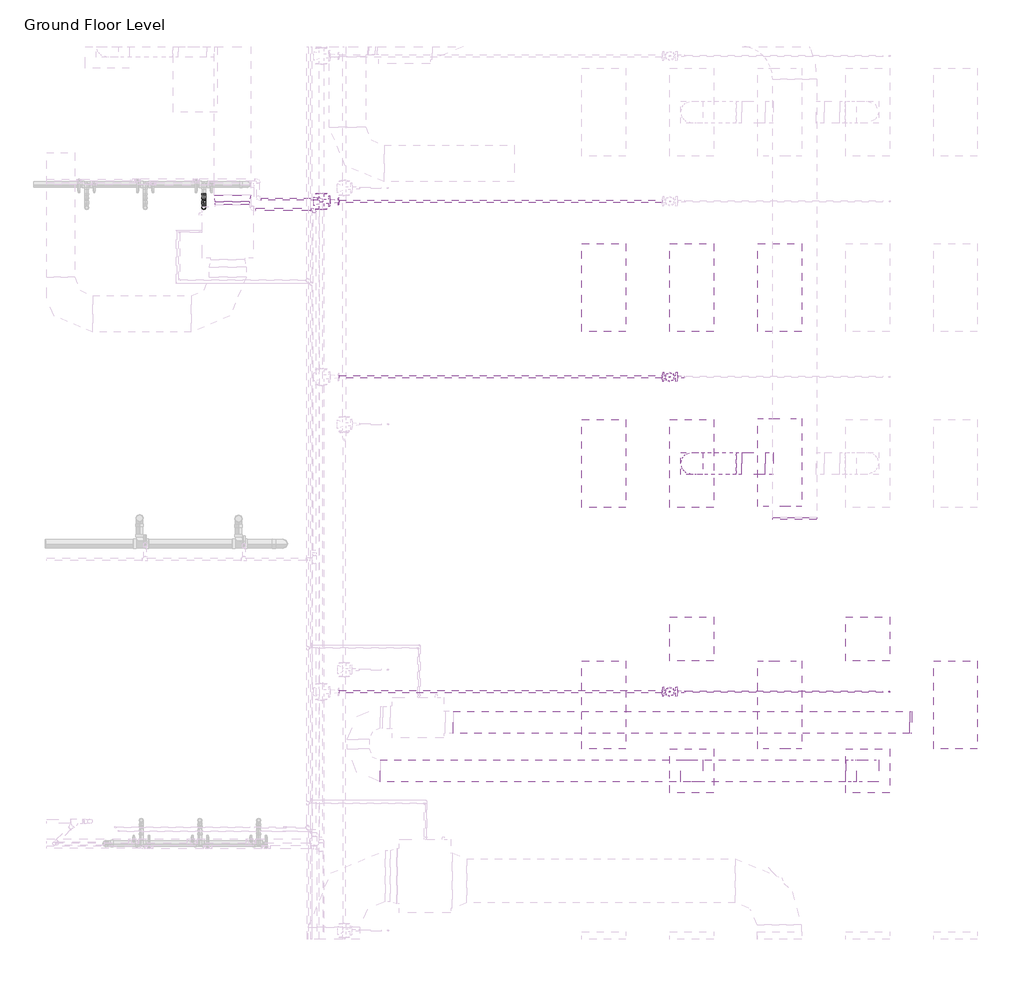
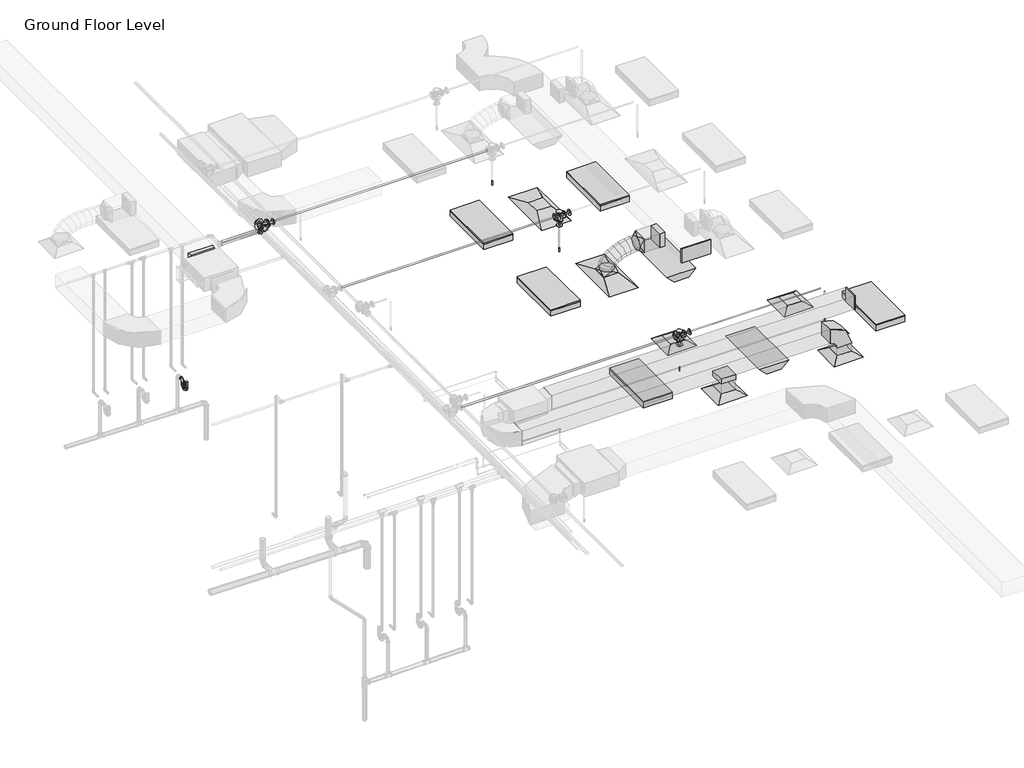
# One storey, part 22 of 74: 13 pipe fittings, 12 pipe segments, 8 duct fittings, 7 duct segments, 7 light fixtures, 6 air terminals, 4 fire suppression terminals.
"""IFC4 building model written with IfcOpenShell, lengths in millimetres."""

from ifc_helpers import new_model, si_unit, point, frame, frame_2d, origin, place, context, project, spatial, polyline, circle_curve, ellipse_curve, trimmed, segment, composite_curve, outline, extrude, transform, mapped, element, save
from ifc_brep_helpers import plane_surface, cylinder_surface, advanced_brep
from components import m_return_diffuser_1200x600_1200_x_600_face_300_x_300_d1983ef6, m_return_diffuser_600_x_600_face_300_x_300_connection_ff221211, m_rectangular_elbow_radius_1_w_618da153, m_rectangular_endcap_standard_0f0ff112, m_rectangular_endcap_standard_c319d4e7, m_rectangular_takeoff_standard_2be5eba1, m_rectangular_transition_angle_45_degree_c3bd3b2c, m_rectangular_to_round_transition_angle_45_degree_641efff0, m_sprinkler_dry_pendent_hosted_15_mm_dry_pendent_9bda8e11, m_emergency_recessed_lighting_fixture_600x1200_277_5b10b25d, m_troffer_light_parabolic_rectangular1_0600x1200mm_4_lamp_86473d4a, m_bend_pvc_sch_40_dwv_standard_1e7bdcc1, m_bend_pvc_sch_40_dwv_standard_776e50c4, m_reducer_flanged_cs_class_150_standard_ccf252ad, m_reducer_flanged_cs_class_150_standard_a7631c35, m_tee_round_base_flanged_cs_class_150_standard_dd767e04, m_tee_round_base_flanged_cs_class_150_standard_7e5987a1, standard_517a5a8d

model = new_model("IFC4")

# Units and contexts
model_context = context("Model", 3, world=origin())
ifc_project = project(units=[si_unit("LENGTHUNIT", "METRE", prefix="MILLI")], contexts=[model_context])

# Site, building, storey
site = spatial("IfcSite", under=ifc_project)
building = spatial("IfcBuilding", under=site)
storey = spatial("IfcBuildingStorey", under=building, Name="Ground Floor Level", Elevation=900.0)

# Air terminals
placement = place(None, origin())
m_return_diffuser_1200x600_1200_x_600_face_300_x_300_shape = m_return_diffuser_1200x600_1200_x_600_face_300_x_300_d1983ef6(model_context)
element("IfcAirTerminal", 1, ObjectType="M_Return Diffuser 1200x600 : 1200 x 600 Face 300 x 300 Connection", at=placement, inside=storey, context=model_context, shape_type="MappedRepresentation", body=[
    mapped(m_return_diffuser_1200x600_1200_x_600_face_300_x_300_shape, transform((10743.0482736, -25264.7846466, 3650.0), x_axis=(0.0, 1.0, 0.0), y_axis=(-1.0, 0.0, 0.0), z_axis=(0.0, 0.0, 1.0))),
])
m_return_diffuser_600_x_600_face_300_x_300_connection_shape = m_return_diffuser_600_x_600_face_300_x_300_connection_ff221211(model_context)
element("IfcAirTerminal", 2, ObjectType="M_Return Diffuser : 600 x 600 Face 300 x 300 Connection", at=placement, inside=storey, context=model_context, shape_type="MappedRepresentation", body=[
    mapped(m_return_diffuser_600_x_600_face_300_x_300_connection_shape, transform((10743.0482736, -31864.7846466, 3650.0), x_axis=(1.0, 0.0, 0.0), y_axis=(0.0, 1.0, 0.0), z_axis=(0.0, 0.0, 1.0))),
])
element("IfcAirTerminal", 3, ObjectType="M_Return Diffuser : 600 x 600 Face 300 x 300 Connection", at=placement, inside=storey, context=model_context, shape_type="MappedRepresentation", body=[
    mapped(m_return_diffuser_600_x_600_face_300_x_300_connection_shape, transform((13143.0482736, -31864.7846466, 3650.0), x_axis=(1.0, 0.0, 0.0), y_axis=(0.0, 1.0, 0.0), z_axis=(0.0, 0.0, 1.0))),
])
element("IfcAirTerminal", 4, ObjectType="M_Supply Diffuser 1200x600 : 1200 x 600 Face 300 x 300 Connection", at=placement, inside=storey, context=model_context, shape_type="MappedRepresentation", body=[
    mapped(m_return_diffuser_1200x600_1200_x_600_face_300_x_300_shape, transform((10743.0482736, -27664.7846466, 3650.0), x_axis=(0.0, 1.0, 0.0), y_axis=(-1.0, 0.0, 0.0), z_axis=(0.0, 0.0, 1.0))),
])
element("IfcAirTerminal", 5, ObjectType="M_Supply Diffuser : 600 x 600 Face 300 x 300 Connection", at=placement, inside=storey, context=model_context, shape_type="MappedRepresentation", body=[
    mapped(m_return_diffuser_600_x_600_face_300_x_300_connection_shape, transform((10743.0482736, -30064.7846466, 3650.0), x_axis=(1.0, 0.0, 0.0), y_axis=(0.0, 1.0, 0.0), z_axis=(0.0, 0.0, 1.0))),
])
element("IfcAirTerminal", 6, ObjectType="M_Supply Diffuser : 600 x 600 Face 300 x 300 Connection", at=placement, inside=storey, context=model_context, shape_type="MappedRepresentation", body=[
    mapped(m_return_diffuser_600_x_600_face_300_x_300_connection_shape, transform((13143.0482736, -30064.7846466, 3650.0), x_axis=(1.0, 0.0, 0.0), y_axis=(0.0, 1.0, 0.0), z_axis=(0.0, 0.0, 1.0))),
])

# Duct fittings
m_rectangular_elbow_radius_1_w_shape = m_rectangular_elbow_radius_1_w_618da153(model_context)
element("IfcDuctFitting", 7, ObjectType="M_Rectangular Elbow - Radius : 1 W", at=placement, inside=storey, context=model_context, shape_type="MappedRepresentation", body=[
    mapped(m_rectangular_elbow_radius_1_w_shape, transform((13143.0482736, -31864.7846466, 4221.2), x_axis=(0.0, 0.0, 1.0), y_axis=(-1.0, 0.0, 0.0), z_axis=(0.0, -1.0, 0.0))),
])
m_rectangular_endcap_standard_shape = m_rectangular_endcap_standard_0f0ff112(model_context)
element("IfcDuctFitting", 8, ObjectType="M_Rectangular Endcap : Standard", at=placement, inside=storey, context=model_context, shape_type="MappedRepresentation", body=[
    mapped(m_rectangular_endcap_standard_shape, transform((12147.7826463, -28403.2846466, 4150.0002153), x_axis=(0.0, -1.0, 0.0), y_axis=(1.0, 0.0, 0.0), z_axis=(0.0, 0.0, 1.0))),
])
m_rectangular_endcap_standard_2_shape = m_rectangular_endcap_standard_c319d4e7(model_context)
element("IfcDuctFitting", 9, ObjectType="M_Rectangular Endcap : Standard", at=placement, inside=storey, context=model_context, shape_type="MappedRepresentation", body=[
    mapped(m_rectangular_endcap_standard_2_shape, transform((13719.2644074, -31200.1877703, 4245.9), x_axis=(0.9999999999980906, 0.0, -1.954187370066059e-06), y_axis=(0.0, 1.0000000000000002, 0.0), z_axis=(1.954187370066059e-06, 0.0, 0.9999999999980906))),
])
m_rectangular_takeoff_standard_shape = m_rectangular_takeoff_standard_2be5eba1(model_context)
element("IfcDuctFitting", 10, ObjectType="M_Rectangular Takeoff : Standard", at=placement, inside=storey, context=model_context, shape_type="MappedRepresentation", body=[
    mapped(m_rectangular_takeoff_standard_shape, transform((11847.7826463, -27664.7846466, 4150.0), x_axis=(-1.0, 0.0, 0.0), y_axis=(0.0, 1.0, 0.0), z_axis=(0.0, 0.0, -1.0))),
])
element("IfcDuctFitting", 11, ObjectType="M_Rectangular Takeoff : Standard", at=placement, inside=storey, context=model_context, shape_type="MappedRepresentation", body=[
    mapped(m_rectangular_takeoff_standard_shape, transform((10743.0482736, -31864.7846466, 4071.2), x_axis=(0.0, 0.0, -1.0), y_axis=(-1.0, 0.0, 0.0), z_axis=(0.0, 1.0, 0.0))),
])
m_rectangular_transition_angle_45_degree_shape = m_rectangular_transition_angle_45_degree_c3bd3b2c(model_context)
element("IfcDuctFitting", 12, ObjectType="M_Rectangular Transition - Angle : 45 Degree", at=placement, inside=storey, context=model_context, shape_type="MappedRepresentation", body=[
    mapped(m_rectangular_transition_angle_45_degree_shape, transform((4469.1581832, -24003.4668801, 4057.1548873), x_axis=(0.0, -0.9999999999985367, 1.7107374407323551e-06), y_axis=(1.0, 0.0, 0.0), z_axis=(0.0, 1.7107374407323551e-06, 0.9999999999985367))),
])
m_rectangular_to_round_transition_angle_45_degree_shape = m_rectangular_to_round_transition_angle_45_degree_641efff0(model_context)
element("IfcDuctFitting", 13, ObjectType="M_Rectangular to Round Transition - Angle : 45 Degree", at=placement, inside=storey, context=model_context, shape_type="MappedRepresentation", body=[
    mapped(m_rectangular_to_round_transition_angle_45_degree_shape, transform((10743.0482736, -27664.7846466, 3751.6), x_axis=(0.0, 0.0, 1.0), y_axis=(-1.0, 0.0, 0.0), z_axis=(0.0, -1.0, 0.0))),
])
element("IfcDuctFitting", 14, ObjectType="M_Rectangular to Round Transition - Angle : 45 Degree", at=placement, inside=storey, context=model_context, shape_type="MappedRepresentation", body=[
    mapped(m_rectangular_to_round_transition_angle_45_degree_shape, transform((11424.4842049, -27664.7846466, 4150.0), x_axis=(-1.0, 0.0, 0.0), y_axis=(0.0, -1.0, 0.0), z_axis=(0.0, 0.0, 1.0))),
])

# Duct segments
element("IfcDuctSegment", 15, ObjectType="Flex - Round", at=placement, inside=storey, context=model_context, shape_type="AdvancedBrep", body=[
    advanced_brep(
    [(10893.0482736, -27664.7846466, 3826.6), (10743.0482736, -27814.7846466, 3826.6), (10593.0482736, -27664.7846466, 3826.6), (10743.0482736, -27514.7846466, 3826.6), (10893.0482736, -27664.7846466, 3832.4838104), (10743.0482736, -27814.7846466, 3857.3049615), (10593.0482736, -27664.7846466, 3882.1261126), (10743.0482736, -27514.7846466, 3857.3049615), (10895.1777586, -27664.7846466, 3838.7421096), (10759.7096782, -27814.7846466, 3906.2708192), (10624.2415979, -27664.7846466, 3973.7995287), (10759.7096782, -27514.7846466, 3906.2708192), (10917.1997864, -27664.7846466, 3871.1472855), (10805.5876959, -27814.7846466, 3973.7798261), (10693.9756053, -27664.7846466, 4076.4123668), (10805.5876959, -27514.7846466, 3973.7798261), (10957.142511, -27664.7846466, 3903.4915826), (10874.5230324, -27814.7846466, 4029.6013814), (10791.9035539, -27664.7846466, 4155.7111802), (10874.5230324, -27514.7846466, 4029.6013814), (11020.0646936, -27664.7846466, 3936.1928758), (10960.3563938, -27814.7846466, 4074.2098454), (10900.6480941, -27664.7846466, 4212.226815), (10960.3563938, -27514.7846466, 4074.2098454), (11098.9170855, -27664.7846466, 3963.8479616), (11056.9284859, -27814.7846466, 4108.0795788), (11014.9398863, -27664.7846466, 4252.311196), (11056.9284859, -27514.7846466, 4108.0795788), (11185.4890682, -27664.7846466, 3984.0509494), (11158.0800145, -27814.7846466, 4131.684942), (11130.6709609, -27664.7846466, 4279.3189347), (11158.0800145, -27514.7846466, 4131.684942), (11271.9732516, -27664.7846466, 3996.0504424), (11257.6516856, -27814.7846466, 4145.5002956), (11243.3301196, -27664.7846466, 4294.9501488), (11257.6516856, -27514.7846466, 4145.5002956), (11346.1345531, -27664.7846466, 4000.0), (11342.1431577, -27814.7846466, 4150.0), (11338.1517622, -27664.7846466, 4300.0), (11342.1431577, -27514.7846466, 4150.0), (11349.4842049, -27664.7846466, 4000.0), (11349.4842049, -27514.7846466, 4150.0), (11349.4842049, -27664.7846466, 4300.0), (11349.4842049, -27814.7846466, 4150.0)],
    [
        (0, 1, circle_curve(frame((10743.0482736, -27664.7846466, 3826.6), z_axis=(0.0, 0.0, -1.0), x_axis=(1.0, 0.0, 0.0)), 150.0)),
        (1, 2, circle_curve(frame((10743.0482736, -27664.7846466, 3826.6), z_axis=(0.0, 0.0, -1.0), x_axis=(1.0, 0.0, 0.0)), 150.0)),
        (2, 3, circle_curve(frame((10743.0482736, -27664.7846466, 3826.6), z_axis=(0.0, 0.0, -1.0), x_axis=(1.0, 0.0, 0.0)), 150.0)),
        (3, 0, circle_curve(frame((10743.0482736, -27664.7846466, 3826.6), z_axis=(0.0, 0.0, -1.0), x_axis=(1.0, 0.0, 0.0)), 150.0)),
        (0, 4),
        (4, 5, ellipse_curve(frame((10743.0482736, -27664.7846466, 3857.3049615), z_axis=(-0.1632543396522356, 0.0, -0.9865840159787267), x_axis=(0.9865840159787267, 0.0, -0.16325433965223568)), 152.039763, 150.0)),
        (5, 1),
        (5, 6, ellipse_curve(frame((10743.0482736, -27664.7846466, 3857.3049615), z_axis=(-0.1632543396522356, 0.0, -0.9865840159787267), x_axis=(0.9865840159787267, 0.0, -0.16325433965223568)), 152.039763, 150.0)),
        (6, 2),
        (6, 7, ellipse_curve(frame((10743.0482736, -27664.7846466, 3857.3049615), z_axis=(-0.1632543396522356, 0.0, -0.9865840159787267), x_axis=(0.9865840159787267, 0.0, -0.16325433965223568)), 152.039763, 150.0)),
        (7, 3),
        (7, 4, ellipse_curve(frame((10743.0482736, -27664.7846466, 3857.3049615), z_axis=(-0.1632543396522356, 0.0, -0.9865840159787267), x_axis=(0.9865840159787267, 0.0, -0.16325433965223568)), 152.039763, 150.0)),
        (4, 8),
        (8, 9, ellipse_curve(frame((10759.7096782, -27664.7846466, 3906.2708192), z_axis=(-0.4461280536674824, 0.0, -0.8949691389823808), x_axis=(0.8949691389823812, 0.0, -0.44612805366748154)), 151.366203, 150.0)),
        (9, 5),
        (9, 10, ellipse_curve(frame((10759.7096782, -27664.7846466, 3906.2708192), z_axis=(-0.4461280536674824, 0.0, -0.8949691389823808), x_axis=(0.8949691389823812, 0.0, -0.44612805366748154)), 151.366203, 150.0)),
        (10, 6),
        (10, 11, ellipse_curve(frame((10759.7096782, -27664.7846466, 3906.2708192), z_axis=(-0.4461280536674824, 0.0, -0.8949691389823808), x_axis=(0.8949691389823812, 0.0, -0.44612805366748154)), 151.366203, 150.0)),
        (11, 7),
        (11, 8, ellipse_curve(frame((10759.7096782, -27664.7846466, 3906.2708192), z_axis=(-0.4461280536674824, 0.0, -0.8949691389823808), x_axis=(0.8949691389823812, 0.0, -0.44612805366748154)), 151.366203, 150.0)),
        (8, 12),
        (12, 13, ellipse_curve(frame((10805.5876959, -27664.7846466, 3973.7798261), z_axis=(-0.6768758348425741, 0.0, -0.7360972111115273), x_axis=(0.7360972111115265, 0.0, -0.6768758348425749)), 151.6268352, 150.0)),
        (13, 9),
        (13, 14, ellipse_curve(frame((10805.5876959, -27664.7846466, 3973.7798261), z_axis=(-0.6768758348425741, 0.0, -0.7360972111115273), x_axis=(0.7360972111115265, 0.0, -0.6768758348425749)), 151.6268352, 150.0)),
        (14, 10),
        (14, 15, ellipse_curve(frame((10805.5876959, -27664.7846466, 3973.7798261), z_axis=(-0.6768758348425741, 0.0, -0.7360972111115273), x_axis=(0.7360972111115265, 0.0, -0.6768758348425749)), 151.6268352, 150.0)),
        (15, 11),
        (15, 12, ellipse_curve(frame((10805.5876959, -27664.7846466, 3973.7798261), z_axis=(-0.6768758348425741, 0.0, -0.7360972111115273), x_axis=(0.7360972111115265, 0.0, -0.6768758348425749)), 151.6268352, 150.0)),
        (12, 16),
        (16, 17, ellipse_curve(frame((10874.5230324, -27664.7846466, 4029.6013814), z_axis=(-0.8364738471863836, 0.0, -0.5480068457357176), x_axis=(0.5480068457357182, 0.0, -0.8364738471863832)), 150.7635884, 150.0)),
        (17, 13),
        (17, 18, ellipse_curve(frame((10874.5230324, -27664.7846466, 4029.6013814), z_axis=(-0.8364738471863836, 0.0, -0.5480068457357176), x_axis=(0.5480068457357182, 0.0, -0.8364738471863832)), 150.7635884, 150.0)),
        (18, 14),
        (18, 19, ellipse_curve(frame((10874.5230324, -27664.7846466, 4029.6013814), z_axis=(-0.8364738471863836, 0.0, -0.5480068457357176), x_axis=(0.5480068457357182, 0.0, -0.8364738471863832)), 150.7635884, 150.0)),
        (19, 15),
        (19, 16, ellipse_curve(frame((10874.5230324, -27664.7846466, 4029.6013814), z_axis=(-0.8364738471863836, 0.0, -0.5480068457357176), x_axis=(0.5480068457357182, 0.0, -0.8364738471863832)), 150.7635884, 150.0)),
        (16, 20),
        (20, 21, ellipse_curve(frame((10960.3563938, -27664.7846466, 4074.2098454), z_axis=(-0.9177957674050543, 0.0, -0.3970528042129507), x_axis=(0.3970528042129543, 0.0, -0.9177957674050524)), 150.3787384, 150.0)),
        (21, 17),
        (21, 22, ellipse_curve(frame((10960.3563938, -27664.7846466, 4074.2098454), z_axis=(-0.9177957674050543, 0.0, -0.3970528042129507), x_axis=(0.3970528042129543, 0.0, -0.9177957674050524)), 150.3787384, 150.0)),
        (22, 18),
        (22, 23, ellipse_curve(frame((10960.3563938, -27664.7846466, 4074.2098454), z_axis=(-0.9177957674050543, 0.0, -0.3970528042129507), x_axis=(0.3970528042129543, 0.0, -0.9177957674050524)), 150.3787384, 150.0)),
        (23, 19),
        (23, 20, ellipse_curve(frame((10960.3563938, -27664.7846466, 4074.2098454), z_axis=(-0.9177957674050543, 0.0, -0.3970528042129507), x_axis=(0.3970528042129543, 0.0, -0.9177957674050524)), 150.3787384, 150.0)),
        (20, 24),
        (24, 25, ellipse_curve(frame((11056.9284859, -27664.7846466, 4108.0795788), z_axis=(-0.9601411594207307, 0.0, -0.27951557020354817), x_axis=(0.2795155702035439, 0.0, -0.9601411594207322)), 150.2191795, 150.0)),
        (25, 21),
        (25, 26, ellipse_curve(frame((11056.9284859, -27664.7846466, 4108.0795788), z_axis=(-0.9601411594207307, 0.0, -0.27951557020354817), x_axis=(0.2795155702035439, 0.0, -0.9601411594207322)), 150.2191795, 150.0)),
        (26, 22),
        (26, 27, ellipse_curve(frame((11056.9284859, -27664.7846466, 4108.0795788), z_axis=(-0.9601411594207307, 0.0, -0.27951557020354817), x_axis=(0.2795155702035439, 0.0, -0.9601411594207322)), 150.2191795, 150.0)),
        (27, 23),
        (27, 24, ellipse_curve(frame((11056.9284859, -27664.7846466, 4108.0795788), z_axis=(-0.9601411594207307, 0.0, -0.27951557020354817), x_axis=(0.2795155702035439, 0.0, -0.9601411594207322)), 150.2191795, 150.0)),
        (24, 28),
        (28, 29, ellipse_curve(frame((11158.0800145, -27664.7846466, 4131.684942), z_axis=(-0.9831991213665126, 0.0, -0.1825362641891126), x_axis=(0.18253626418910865, 0.0, -0.9831991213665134)), 150.1567581, 150.0)),
        (29, 25),
        (29, 30, ellipse_curve(frame((11158.0800145, -27664.7846466, 4131.684942), z_axis=(-0.9831991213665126, 0.0, -0.1825362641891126), x_axis=(0.18253626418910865, 0.0, -0.9831991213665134)), 150.1567581, 150.0)),
        (30, 26),
        (30, 31, ellipse_curve(frame((11158.0800145, -27664.7846466, 4131.684942), z_axis=(-0.9831991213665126, 0.0, -0.1825362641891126), x_axis=(0.18253626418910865, 0.0, -0.9831991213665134)), 150.1567581, 150.0)),
        (31, 27),
        (31, 28, ellipse_curve(frame((11158.0800145, -27664.7846466, 4131.684942), z_axis=(-0.9831991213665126, 0.0, -0.1825362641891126), x_axis=(0.18253626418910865, 0.0, -0.9831991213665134)), 150.1567581, 150.0)),
        (28, 32),
        (32, 33, ellipse_curve(frame((11257.6516856, -27664.7846466, 4145.5002956), z_axis=(-0.9954398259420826, 0.0, -0.09539157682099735), x_axis=(0.09539157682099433, 0.0, -0.9954398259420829)), 150.1344926, 150.0)),
        (33, 29),
        (33, 34, ellipse_curve(frame((11257.6516856, -27664.7846466, 4145.5002956), z_axis=(-0.9954398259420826, 0.0, -0.09539157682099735), x_axis=(0.09539157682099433, 0.0, -0.9954398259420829)), 150.1344926, 150.0)),
        (34, 30),
        (34, 35, ellipse_curve(frame((11257.6516856, -27664.7846466, 4145.5002956), z_axis=(-0.9954398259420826, 0.0, -0.09539157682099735), x_axis=(0.09539157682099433, 0.0, -0.9954398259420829)), 150.1344926, 150.0)),
        (35, 31),
        (35, 32, ellipse_curve(frame((11257.6516856, -27664.7846466, 4145.5002956), z_axis=(-0.9954398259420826, 0.0, -0.09539157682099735), x_axis=(0.09539157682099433, 0.0, -0.9954398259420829)), 150.1344926, 150.0)),
        (32, 36),
        (36, 37, ellipse_curve(frame((11342.1431577, -27664.7846466, 4150.0), z_axis=(-0.9996461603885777, 0.0, -0.02659988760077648), x_axis=(0.026599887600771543, 0.0, -0.9996461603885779)), 150.0530947, 150.0)),
        (37, 33),
        (37, 38, ellipse_curve(frame((11342.1431577, -27664.7846466, 4150.0), z_axis=(-0.9996461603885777, 0.0, -0.02659988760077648), x_axis=(0.026599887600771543, 0.0, -0.9996461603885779)), 150.0530947, 150.0)),
        (38, 34),
        (38, 39, ellipse_curve(frame((11342.1431577, -27664.7846466, 4150.0), z_axis=(-0.9996461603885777, 0.0, -0.02659988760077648), x_axis=(0.026599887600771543, 0.0, -0.9996461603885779)), 150.0530947, 150.0)),
        (39, 35),
        (39, 36, ellipse_curve(frame((11342.1431577, -27664.7846466, 4150.0), z_axis=(-0.9996461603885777, 0.0, -0.02659988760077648), x_axis=(0.026599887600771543, 0.0, -0.9996461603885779)), 150.0530947, 150.0)),
        (40, 41, circle_curve(frame((11349.4842049, -27664.7846466, 4150.0), z_axis=(1.0, 0.0, 0.0), x_axis=(0.0, 0.0, -1.0)), 150.0)),
        (41, 42, circle_curve(frame((11349.4842049, -27664.7846466, 4150.0), z_axis=(1.0, 0.0, 0.0), x_axis=(0.0, 0.0, -1.0)), 150.0)),
        (42, 43, circle_curve(frame((11349.4842049, -27664.7846466, 4150.0), z_axis=(1.0, 0.0, 0.0), x_axis=(0.0, 0.0, -1.0)), 150.0)),
        (43, 40, circle_curve(frame((11349.4842049, -27664.7846466, 4150.0), z_axis=(1.0, 0.0, 0.0), x_axis=(0.0, 0.0, -1.0)), 150.0)),
        (36, 40),
        (43, 37),
        (42, 38),
        (41, 39),
    ],
    [
        plane_surface(frame((10743.0482736, -27814.7846466, 3826.6), z_axis=(0.0, 0.0, -1.0), x_axis=(1.0, 0.0, 0.0))),
        cylinder_surface(frame((10743.0482736, -27664.7846466, 3826.6), z_axis=(0.0, 0.0, -1.0), x_axis=(1.0, 0.0, 0.0)), 150.0),
        cylinder_surface(frame((10743.0482736, -27664.7846466, 3857.3049615), z_axis=(-0.32212824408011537, 0.0, -0.946696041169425), x_axis=(0.946696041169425, 0.0, -0.32212824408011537)), 150.0),
        cylinder_surface(frame((10759.7096782, -27664.7846466, 3906.2708192), z_axis=(-0.5620745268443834, 0.0, -0.827086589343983), x_axis=(0.827086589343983, 0.0, -0.5620745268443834)), 150.0),
        cylinder_surface(frame((10805.5876959, -27664.7846466, 3973.7798261), z_axis=(-0.7771524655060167, 0.0, -0.6293123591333), x_axis=(0.6293123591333, 0.0, -0.7771524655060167)), 150.0),
        cylinder_surface(frame((10874.5230324, -27664.7846466, 4029.6013814), z_axis=(-0.8873220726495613, 0.0, -0.4611502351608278), x_axis=(0.4611502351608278, 0.0, -0.8873220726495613)), 150.0),
        cylinder_surface(frame((10960.3563938, -27664.7846466, 4074.2098454), z_axis=(-0.9436464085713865, 0.0, -0.33095536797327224), x_axis=(0.33095536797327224, 0.0, -0.9436464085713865)), 150.0),
        cylinder_surface(frame((11056.9284859, -27664.7846466, 4108.0795788), z_axis=(-0.9738340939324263, 0.0, -0.22726010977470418), x_axis=(0.22726010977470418, 0.0, -0.9738340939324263)), 150.0),
        cylinder_surface(frame((11158.0800145, -27664.7846466, 4131.684942), z_axis=(-0.9905113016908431, 0.0, -0.13743129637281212), x_axis=(0.13743129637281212, 0.0, -0.9905113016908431)), 150.0),
        cylinder_surface(frame((11257.6516856, -27664.7846466, 4145.5002956), z_axis=(-0.9985848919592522, 0.0, -0.05318095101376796), x_axis=(0.05318095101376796, 0.0, -0.9985848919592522)), 150.0),
        plane_surface(frame((11349.4842049, -27664.7846466, 4000.0), z_axis=(1.0, 0.0, 0.0), x_axis=(0.0, 1.0, 0.0))),
        cylinder_surface(frame((11342.1431577, -27664.7846466, 4150.0), z_axis=(-1.0, 0.0, 0.0), x_axis=(0.0, 0.0, -1.0)), 150.0),
    ],
    [
        (0, [[1, 2, 3, 4]]),
        (1, [[-1, 5, 6, 7]]),
        (1, [[-2, -7, 8, 9]]),
        (1, [[-3, -9, 10, 11]]),
        (1, [[-4, -11, 12, -5]]),
        (2, [[-6, 13, 14, 15]]),
        (2, [[-8, -15, 16, 17]]),
        (2, [[-10, -17, 18, 19]]),
        (2, [[-12, -19, 20, -13]]),
        (3, [[-14, 21, 22, 23]]),
        (3, [[-16, -23, 24, 25]]),
        (3, [[-18, -25, 26, 27]]),
        (3, [[-20, -27, 28, -21]]),
        (4, [[-22, 29, 30, 31]]),
        (4, [[-24, -31, 32, 33]]),
        (4, [[-26, -33, 34, 35]]),
        (4, [[-28, -35, 36, -29]]),
        (5, [[-30, 37, 38, 39]]),
        (5, [[-32, -39, 40, 41]]),
        (5, [[-34, -41, 42, 43]]),
        (5, [[-36, -43, 44, -37]]),
        (6, [[-38, 45, 46, 47]]),
        (6, [[-40, -47, 48, 49]]),
        (6, [[-42, -49, 50, 51]]),
        (6, [[-44, -51, 52, -45]]),
        (7, [[-46, 53, 54, 55]]),
        (7, [[-48, -55, 56, 57]]),
        (7, [[-50, -57, 58, 59]]),
        (7, [[-52, -59, 60, -53]]),
        (8, [[-54, 61, 62, 63]]),
        (8, [[-56, -63, 64, 65]]),
        (8, [[-58, -65, 66, 67]]),
        (8, [[-60, -67, 68, -61]]),
        (9, [[-62, 69, 70, 71]]),
        (9, [[-64, -71, 72, 73]]),
        (9, [[-66, -73, 74, 75]]),
        (9, [[-68, -75, 76, -69]]),
        (10, [[77, 78, 79, 80]]),
        (11, [[-70, 81, -80, 82]]),
        (11, [[-72, -82, -79, 83]]),
        (11, [[-74, -83, -78, 84]]),
        (11, [[-76, -84, -77, -81]]),
    ],
),
])
element("IfcDuctSegment", 16, ObjectType="Radius Elbows / Taps", at=placement, inside=storey, context=model_context, shape_type="SweptSolid", body=[
    extrude(outline(polyline([(11746.1826463, -27514.7846466), (11746.1826463, -27814.7846466), (11424.4842049, -27814.7846466), (11424.4842049, -27514.7846466), (11746.1826463, -27514.7846466)])), frame((0.0, 0.0, 4000.0), z_axis=(0.0, 0.0, 1.0), x_axis=(1.0, 0.0, 0.0)), (0.0, 0.0, 1.0), 300.0),
])
element("IfcDuctSegment", 17, ObjectType="Radius Elbows / Taps", at=placement, inside=storey, context=model_context, shape_type="SweptSolid", body=[
    extrude(outline(polyline([(0.0, -300.0), (0.0, 0.0), (6236.5207712, 0.0), (6236.5207712, -300.0), (0.0, -300.0)])), frame((7482.7433356, -31050.1877703, 4095.9125), z_axis=(2.004322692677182e-06, 0.0, 0.9999999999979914), x_axis=(0.9999999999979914, 0.0, -2.004322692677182e-06)), (0.0, 0.0, 1.0), 300.0),
])
element("IfcDuctSegment", 18, ObjectType="Radius Elbows / Taps", at=placement, inside=storey, context=model_context, shape_type="SweptSolid", body=[
    extrude(outline(polyline([(6488.4644074, -32014.7846466), (6488.4644074, -31714.7846466), (12843.0482736, -31714.7846466), (12843.0482736, -32014.7846466), (6488.4644074, -32014.7846466)])), frame((0.0, 0.0, 4071.2), z_axis=(0.0, 0.0, 1.0), x_axis=(1.0, 0.0, 0.0)), (0.0, 0.0, 1.0), 300.0),
])
element("IfcDuctSegment", 19, ObjectType="Radius Elbows / Taps", at=placement, inside=storey, context=model_context, shape_type="SweptSolid", body=[
    extrude(outline(polyline([(12993.0482736, -32014.7846466), (12993.0482736, -31714.7846466), (13293.0482736, -31714.7846466), (13293.0482736, -32014.7846466), (12993.0482736, -32014.7846466)])), frame((0.0, 0.0, 3751.6), z_axis=(0.0, 0.0, 1.0), x_axis=(1.0, 0.0, 0.0)), (0.0, 0.0, 1.0), 169.6),
])
element("IfcDuctSegment", 20, ObjectType="Radius Elbows / Taps", at=placement, inside=storey, context=model_context, shape_type="SweptSolid", body=[
    extrude(outline(polyline([(10893.0482736, -32014.7846466), (10593.0482736, -32014.7846466), (10593.0482736, -31714.7846466), (10893.0482736, -31714.7846466), (10893.0482736, -32014.7846466)])), frame((0.0, 0.0, 3751.6), z_axis=(0.0, 0.0, 1.0), x_axis=(1.0, 0.0, 0.0)), (0.0, 0.0, 1.0), 218.0),
])
element("IfcDuctSegment", 21, ObjectType="Radius Elbows / Taps", at=placement, inside=storey, context=model_context, shape_type="SweptSolid", body=[
    extrude(outline(polyline([(4700.0956832, -24131.8627051), (4238.2206832, -24131.8627051), (4238.2206832, -24089.1912487), (4700.0956832, -24089.1912487), (4700.0956832, -24131.8627051)])), frame((0.0, 0.0, 3992.8804453), z_axis=(0.0, 0.0, 1.0), x_axis=(1.0, 0.0, 0.0)), (0.0, 0.0, 1.0), 214.275),
])

# Fire suppression terminals
m_sprinkler_dry_pendent_hosted_15_mm_dry_pendent_shape = m_sprinkler_dry_pendent_hosted_15_mm_dry_pendent_9bda8e11(model_context)
element("IfcFireSuppressionTerminal", 22, ObjectType="M_Sprinkler - Dry - Pendent - Hosted : 15 mm Dry Pendent", at=placement, inside=storey, context=model_context, shape_type="MappedRepresentation", body=[
    mapped(m_sprinkler_dry_pendent_hosted_15_mm_dry_pendent_shape, transform((10443.0482736, -24083.6779349, 3650.0), x_axis=(1.0, 0.0, 0.0), y_axis=(0.0, -1.0, 0.0), z_axis=(0.0, 0.0, -1.0))),
])
element("IfcFireSuppressionTerminal", 23, ObjectType="M_Sprinkler - Dry - Pendent - Hosted : 15 mm Dry Pendent", at=placement, inside=storey, context=model_context, shape_type="MappedRepresentation", body=[
    mapped(m_sprinkler_dry_pendent_hosted_15_mm_dry_pendent_shape, transform((10443.0482736, -26484.6295433, 3650.0), x_axis=(1.0, 0.0, 0.0), y_axis=(0.0, -1.0, 0.0), z_axis=(0.0, 0.0, -1.0))),
])
element("IfcFireSuppressionTerminal", 24, ObjectType="M_Sprinkler - Dry - Pendent - Hosted : 15 mm Dry Pendent", at=placement, inside=storey, context=model_context, shape_type="MappedRepresentation", body=[
    mapped(m_sprinkler_dry_pendent_hosted_15_mm_dry_pendent_shape, transform((10443.0482736, -30785.1783804, 3650.0), x_axis=(1.0, 0.0, 0.0), y_axis=(0.0, -1.0, 0.0), z_axis=(0.0, 0.0, -1.0))),
])
element("IfcFireSuppressionTerminal", 25, ObjectType="M_Sprinkler - Dry - Pendent - Hosted : 15 mm Dry Pendent", at=placement, inside=storey, context=model_context, shape_type="MappedRepresentation", body=[
    mapped(m_sprinkler_dry_pendent_hosted_15_mm_dry_pendent_shape, transform((13443.0482736, -30785.1783804, 3650.0), x_axis=(1.0, 0.0, 0.0), y_axis=(0.0, -1.0, 0.0), z_axis=(0.0, 0.0, -1.0))),
])

# Light fixtures
m_emergency_recessed_lighting_fixture_600x1200_277_shape = m_emergency_recessed_lighting_fixture_600x1200_277_5b10b25d(model_context)
element("IfcLightFixture", 26, ObjectType="M_Emergency Recessed Lighting Fixture : 600x1200 - 277", at=placement, inside=storey, context=model_context, shape_type="MappedRepresentation", body=[
    mapped(m_emergency_recessed_lighting_fixture_600x1200_277_shape, transform((11643.0482736, -28254.7846466, 3650.0), x_axis=(0.0, 1.0, 0.0), y_axis=(-1.0, 0.0, 0.0), z_axis=(0.0, 0.0, 1.0))),
])
element("IfcLightFixture", 27, ObjectType="M_Emergency Recessed Lighting Fixture : 600x1200 - 277", at=placement, inside=storey, context=model_context, shape_type="MappedRepresentation", body=[
    mapped(m_emergency_recessed_lighting_fixture_600x1200_277_shape, transform((11643.0482736, -31564.7846466, 3650.0), x_axis=(0.0, 1.0, 0.0), y_axis=(-1.0, 0.0, 0.0), z_axis=(0.0, 0.0, 1.0))),
])
m_troffer_light_parabolic_rectangular1_0600x1200mm_4_lamp_shape = m_troffer_light_parabolic_rectangular1_0600x1200mm_4_lamp_86473d4a(model_context)
element("IfcLightFixture", 28, ObjectType="M_Troffer Light - Parabolic Rectangular1 : 0600x1200mm(4 Lamp) - 277V 2", at=placement, inside=storey, context=model_context, shape_type="MappedRepresentation", body=[
    mapped(m_troffer_light_parabolic_rectangular1_0600x1200mm_4_lamp_shape, transform((9483.5823415, -25246.081145, 3650.0), x_axis=(0.0, 1.0, 0.0), y_axis=(-1.0, 0.0, 0.0), z_axis=(0.0, 0.0, 1.0))),
])
element("IfcLightFixture", 29, ObjectType="M_Troffer Light - Parabolic Rectangular1 : 0600x1200mm(4 Lamp) - 277V 2", at=placement, inside=storey, context=model_context, shape_type="MappedRepresentation", body=[
    mapped(m_troffer_light_parabolic_rectangular1_0600x1200mm_4_lamp_shape, transform((11883.5823415, -25246.081145, 3650.0), x_axis=(0.0, 1.0, 0.0), y_axis=(-1.0, 0.0, 0.0), z_axis=(0.0, 0.0, 1.0))),
])
element("IfcLightFixture", 30, ObjectType="M_Troffer Light - Parabolic Rectangular1 : 0600x1200mm(4 Lamp) - 277V 2", at=placement, inside=storey, context=model_context, shape_type="MappedRepresentation", body=[
    mapped(m_troffer_light_parabolic_rectangular1_0600x1200mm_4_lamp_shape, transform((9483.5823415, -27646.081145, 3650.0), x_axis=(0.0, 1.0, 0.0), y_axis=(-1.0, 0.0, 0.0), z_axis=(0.0, 0.0, 1.0))),
])
element("IfcLightFixture", 31, ObjectType="M_Troffer Light - Parabolic Rectangular1 : 0600x1200mm(4 Lamp) - 277V 2", at=placement, inside=storey, context=model_context, shape_type="MappedRepresentation", body=[
    mapped(m_troffer_light_parabolic_rectangular1_0600x1200mm_4_lamp_shape, transform((9483.5823415, -30946.081145, 3650.0), x_axis=(0.0, 1.0, 0.0), y_axis=(-1.0, 0.0, 0.0), z_axis=(0.0, 0.0, 1.0))),
])
element("IfcLightFixture", 32, ObjectType="M_Troffer Light - Parabolic Rectangular1 : 0600x1200mm(4 Lamp) - 277V 2", at=placement, inside=storey, context=model_context, shape_type="MappedRepresentation", body=[
    mapped(m_troffer_light_parabolic_rectangular1_0600x1200mm_4_lamp_shape, transform((14283.5823415, -30946.081145, 3650.0), x_axis=(0.0, 1.0, 0.0), y_axis=(-1.0, 0.0, 0.0), z_axis=(0.0, 0.0, 1.0))),
])

# Pipe fittings
m_bend_pvc_sch_40_dwv_standard_shape = m_bend_pvc_sch_40_dwv_standard_1e7bdcc1(model_context)
element("IfcPipeFitting", 33, ObjectType="M_Bend - PVC - Sch 40 - DWV : Standard", at=placement, inside=storey, context=model_context, shape_type="MappedRepresentation", body=[
    mapped(m_bend_pvc_sch_40_dwv_standard_shape, transform((4078.7498, -24168.3528578, 1360.00001), x_axis=(0.0, -0.9999500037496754, 0.009999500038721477), y_axis=(0.0, 0.009999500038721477, 0.9999500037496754), z_axis=(-1.0, 0.0, 0.0))),
])
m_bend_pvc_sch_40_dwv_standard_2_shape = m_bend_pvc_sch_40_dwv_standard_776e50c4(model_context)
element("IfcPipeFitting", 34, ObjectType="M_Bend - PVC - Sch 40 - DWV : Standard", at=placement, inside=storey, context=model_context, shape_type="MappedRepresentation", body=[
    mapped(m_bend_pvc_sch_40_dwv_standard_2_shape, transform((4078.7498, -24038.3518579, 1358.7), x_axis=(0.0, 0.9999500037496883, -0.009999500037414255), y_axis=(0.0, 0.009999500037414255, 0.9999500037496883), z_axis=(1.0, 0.0, 0.0))),
])
element("IfcPipeFitting", 35, ObjectType="M_Bend - PVC - Sch 40 - DWV : Standard", at=placement, inside=storey, context=model_context, shape_type="MappedRepresentation", body=[
    mapped(m_bend_pvc_sch_40_dwv_standard_2_shape, transform((4078.7498, -24038.3518579, 1510.09999), x_axis=(0.0, 0.0, 1.0), y_axis=(0.0, 1.0, 0.0), z_axis=(-1.0, 0.0, 0.0))),
])
m_reducer_flanged_cs_class_150_standard_shape = m_reducer_flanged_cs_class_150_standard_ccf252ad(model_context)
element("IfcPipeFitting", 36, ObjectType="M_Reducer - Flanged - CS - Class 150 : Standard", at=placement, inside=storey, context=model_context, shape_type="MappedRepresentation", body=[
    mapped(m_reducer_flanged_cs_class_150_standard_shape, transform((10543.7568674, -30785.1783804, 4347.5), x_axis=(1.0, 0.0, 0.0), y_axis=(0.0, 0.0, 1.0), z_axis=(0.0, -1.0, 0.0))),
])
element("IfcPipeFitting", 37, ObjectType="M_Reducer - Flanged - CS - Class 150 : Standard", at=placement, inside=storey, context=model_context, shape_type="MappedRepresentation", body=[
    mapped(m_reducer_flanged_cs_class_150_standard_shape, transform((10443.0482736, -30785.1783804, 4246.7914063), x_axis=(0.0, 0.0, -1.0), y_axis=(-1.0, 0.0, 0.0), z_axis=(0.0, 1.0, 0.0))),
])
element("IfcPipeFitting", 38, ObjectType="M_Reducer - Flanged - CS - Class 150 : Standard", at=placement, inside=storey, context=model_context, shape_type="MappedRepresentation", body=[
    mapped(m_reducer_flanged_cs_class_150_standard_shape, transform((10543.7568674, -26484.6295433, 4347.5), x_axis=(1.0, 0.0, 0.0), y_axis=(0.0, 0.0, 1.0), z_axis=(0.0, -1.0, 0.0))),
])
element("IfcPipeFitting", 39, ObjectType="M_Reducer - Flanged - CS - Class 150 : Standard", at=placement, inside=storey, context=model_context, shape_type="MappedRepresentation", body=[
    mapped(m_reducer_flanged_cs_class_150_standard_shape, transform((10443.0482736, -26484.6295433, 4246.7914063), x_axis=(0.0, 0.0, -1.0), y_axis=(-1.0, 0.0, 0.0), z_axis=(0.0, 1.0, 0.0))),
])
m_reducer_flanged_cs_class_150_standard_2_shape = m_reducer_flanged_cs_class_150_standard_a7631c35(model_context)
element("IfcPipeFitting", 40, ObjectType="M_Reducer - Flanged - CS - Class 150 : Standard", at=placement, inside=storey, context=model_context, shape_type="MappedRepresentation", body=[
    mapped(m_reducer_flanged_cs_class_150_standard_2_shape, transform((5798.6174894, -24083.6779349, 4347.5), x_axis=(1.0, 0.0, 0.0), y_axis=(0.0, 0.0, 1.0), z_axis=(0.0, -1.0, 0.0))),
])
m_tee_round_base_flanged_cs_class_150_standard_shape = m_tee_round_base_flanged_cs_class_150_standard_dd767e04(model_context)
element("IfcPipeFitting", 41, ObjectType="M_Tee Round Base - Flanged - CS - Class 150 : Standard", at=placement, inside=storey, context=model_context, shape_type="MappedRepresentation", body=[
    mapped(m_tee_round_base_flanged_cs_class_150_standard_shape, transform((5684.6174894, -24083.6779349, 4347.5), x_axis=(0.0, -1.0, 0.0), y_axis=(-1.0, 0.0, 0.0), z_axis=(0.0, 0.0, -1.0))),
])
m_tee_round_base_flanged_cs_class_150_standard_2_shape = m_tee_round_base_flanged_cs_class_150_standard_7e5987a1(model_context)
element("IfcPipeFitting", 42, ObjectType="M_Tee Round Base - Flanged - CS - Class 150 : Standard", at=placement, inside=storey, context=model_context, shape_type="MappedRepresentation", body=[
    mapped(m_tee_round_base_flanged_cs_class_150_standard_2_shape, transform((10443.0482736, -30785.1783804, 4347.5), x_axis=(1.0, 0.0, 0.0), y_axis=(0.0, 0.0, 1.0), z_axis=(0.0, -1.0, 0.0))),
])
element("IfcPipeFitting", 43, ObjectType="M_Tee Round Base - Flanged - CS - Class 150 : Standard", at=placement, inside=storey, context=model_context, shape_type="MappedRepresentation", body=[
    mapped(m_tee_round_base_flanged_cs_class_150_standard_2_shape, transform((10443.0482736, -26484.6295433, 4347.5), x_axis=(1.0, 0.0, 0.0), y_axis=(0.0, 0.0, 1.0), z_axis=(0.0, -1.0, 0.0))),
])
standard_shape = standard_517a5a8d(model_context)
element("IfcPipeFitting", 44, ObjectType="M_Elbow - CPVC - Sch 40 : Standard", at=placement, inside=storey, context=model_context, shape_type="MappedRepresentation", body=[
    mapped(standard_shape, transform((5589.646628, -24195.7825432, 4300.0), x_axis=(0.0, 1.0, 0.0), y_axis=(-1.0, 0.0, 0.0), z_axis=(0.0, 0.0, 1.0))),
])
element("IfcPipeFitting", 45, ObjectType="M_Elbow - CPVC - Sch 40 : Standard", at=placement, inside=storey, context=model_context, shape_type="MappedRepresentation", body=[
    mapped(standard_shape, transform((5680.5575802, -24054.921633, 4250.0), x_axis=(0.0, 1.0, 0.0), y_axis=(-1.0, 0.0, 0.0), z_axis=(0.0, 0.0, 1.0))),
])

# Pipe segments
element("IfcPipeSegment", 46, ObjectType="CPVC", at=placement, inside=storey, context=model_context, shape_type="SweptSolid", body=[
    extrude(outline(composite_curve([segment(trimmed(circle_curve(frame_2d((-24195.7825432, 4300.0)), 16.7005), [point((-24212.4830432, 4300.0))], [point((-24195.7825432, 4316.7005))], False, "CARTESIAN"), True, "CONTINUOUS"), segment(trimmed(circle_curve(frame_2d((-24195.7825432, 4300.0)), 16.7005), [point((-24195.7825432, 4316.7005))], [point((-24179.0820432, 4300.0))], False, "CARTESIAN"), True, "CONTINUOUS"), segment(trimmed(circle_curve(frame_2d((-24195.7825432, 4300.0)), 16.7005), [point((-24179.0820432, 4300.0))], [point((-24195.7825432, 4283.2995))], False, "CARTESIAN"), True, "CONTINUOUS"), segment(trimmed(circle_curve(frame_2d((-24195.7825432, 4300.0)), 16.7005), [point((-24195.7825432, 4283.2995))], [point((-24212.4830432, 4300.0))], False, "CARTESIAN"), True, "CONTINUOUS")], self_intersect=False)), frame((4786.3272706, 0.0, 0.0), z_axis=(1.0, 0.0, 0.0), x_axis=(0.0, 1.0, 0.0)), (0.0, 0.0, 1.0), 760.0568074),
])
element("IfcPipeSegment", 47, ObjectType="CPVC", at=placement, inside=storey, context=model_context, shape_type="SweptSolid", body=[
    extrude(outline(composite_curve([segment(trimmed(circle_curve(frame_2d((-24054.921633, 4250.0)), 16.7005), [point((-24038.221133, 4250.0))], [point((-24054.921633, 4233.2995))], False, "CARTESIAN"), True, "CONTINUOUS"), segment(trimmed(circle_curve(frame_2d((-24054.921633, 4250.0)), 16.7005), [point((-24054.921633, 4233.2995))], [point((-24071.622133, 4250.0))], False, "CARTESIAN"), True, "CONTINUOUS"), segment(trimmed(circle_curve(frame_2d((-24054.921633, 4250.0)), 16.7005), [point((-24071.622133, 4250.0))], [point((-24054.921633, 4266.7005))], False, "CARTESIAN"), True, "CONTINUOUS"), segment(trimmed(circle_curve(frame_2d((-24054.921633, 4250.0)), 16.7005), [point((-24054.921633, 4266.7005))], [point((-24038.221133, 4250.0))], False, "CARTESIAN"), True, "CONTINUOUS")], self_intersect=False)), frame((4863.8201302, 0.0, 0.0), z_axis=(1.0, 0.0, 0.0), x_axis=(0.0, 1.0, 0.0)), (0.0, 0.0, 1.0), 773.4749),
])
element("IfcPipeSegment", 48, ObjectType="PVC - DWV", at=placement, inside=storey, context=model_context, shape_type="SweptSolid", body=[
    extrude(outline(composite_curve([segment(trimmed(circle_curve(frame_2d((4078.7498, -24168.3528578)), 24.13), [point((4054.6198, -24168.3528578))], [point((4078.7498, -24144.2228578))], False, "CARTESIAN"), True, "CONTINUOUS"), segment(trimmed(circle_curve(frame_2d((4078.7498, -24168.3528578)), 24.13), [point((4078.7498, -24144.2228578))], [point((4102.8798, -24168.3528578))], False, "CARTESIAN"), True, "CONTINUOUS"), segment(trimmed(circle_curve(frame_2d((4078.7498, -24168.3528578)), 24.13), [point((4102.8798, -24168.3528578))], [point((4078.7498, -24192.4828578))], False, "CARTESIAN"), True, "CONTINUOUS"), segment(trimmed(circle_curve(frame_2d((4078.7498, -24168.3528578)), 24.13), [point((4078.7498, -24192.4828578))], [point((4054.6198, -24168.3528578))], False, "CARTESIAN"), True, "CONTINUOUS")], self_intersect=False)), frame((0.0, 0.0, 1421.89981), z_axis=(0.0, 0.0, 1.0), x_axis=(1.0, 0.0, 0.0)), (0.0, 0.0, 1.0), 128.10019),
])
element("IfcPipeSegment", 49, ObjectType="PVC - DWV", at=placement, inside=storey, context=model_context, shape_type="SweptSolid", body=[
    extrude(outline(composite_curve([segment(trimmed(circle_curve(frame_2d((0.0, -24.1299999)), 24.13), [point((24.13, -24.1299999))], [point((0.0, -48.2599999))], False, "CARTESIAN"), True, "CONTINUOUS"), segment(trimmed(circle_curve(frame_2d((0.0, -24.1299999)), 24.13), [point((0.0, -48.2599999))], [point((-24.13, -24.1299999))], False, "CARTESIAN"), True, "CONTINUOUS"), segment(trimmed(circle_curve(frame_2d((0.0, -24.1299999)), 24.13), [point((-24.13, -24.1299999))], [point((0.0, 0.0))], False, "CARTESIAN"), True, "CONTINUOUS"), segment(trimmed(circle_curve(frame_2d((0.0, -24.1299999)), 24.13), [point((0.0, 0.0))], [point((24.13, -24.1299999))], False, "CARTESIAN"), True, "CONTINUOUS")], self_intersect=False)), frame((4078.7498, -24100.0072752, 1383.4477606), z_axis=(0.0, -0.9999500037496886, 0.009999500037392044), x_axis=(1.0, 0.0, 0.0)), (0.0, 0.0, 1.0), 6.2078998),
])
element("IfcPipeSegment", 50, ObjectType="PVC - DWV", at=placement, inside=storey, context=model_context, shape_type="SweptSolid", body=[
    extrude(outline(composite_curve([segment(trimmed(circle_curve(frame_2d((4078.7498, -24038.3518579)), 24.13), [point((4054.6198, -24038.3518579))], [point((4078.7498, -24014.2218579))], False, "CARTESIAN"), True, "CONTINUOUS"), segment(trimmed(circle_curve(frame_2d((4078.7498, -24038.3518579)), 24.13), [point((4078.7498, -24014.2218579))], [point((4102.8798, -24038.3518579))], False, "CARTESIAN"), True, "CONTINUOUS"), segment(trimmed(circle_curve(frame_2d((4078.7498, -24038.3518579)), 24.13), [point((4102.8798, -24038.3518579))], [point((4078.7498, -24062.4818579))], False, "CARTESIAN"), True, "CONTINUOUS"), segment(trimmed(circle_curve(frame_2d((4078.7498, -24038.3518579)), 24.13), [point((4078.7498, -24062.4818579))], [point((4054.6198, -24038.3518579))], False, "CARTESIAN"), True, "CONTINUOUS")], self_intersect=False)), frame((0.0, 0.0, 1420.5998), z_axis=(0.0, 0.0, 1.0), x_axis=(1.0, 0.0, 0.0)), (0.0, 0.0, 1.0), 27.60039),
])
element("IfcPipeSegment", 51, ObjectType="Steel flanged", at=placement, inside=storey, context=model_context, shape_type="SweptSolid", body=[
    extrude(outline(composite_curve([segment(trimmed(circle_curve(frame_2d((13443.0482736, -30785.1783804)), 10.668), [point((13432.3802736, -30785.1783804))], [point((13443.0482736, -30774.5103804))], False, "CARTESIAN"), True, "CONTINUOUS"), segment(trimmed(circle_curve(frame_2d((13443.0482736, -30785.1783804)), 10.668), [point((13443.0482736, -30774.5103804))], [point((13453.7162736, -30785.1783804))], False, "CARTESIAN"), True, "CONTINUOUS"), segment(trimmed(circle_curve(frame_2d((13443.0482736, -30785.1783804)), 10.668), [point((13453.7162736, -30785.1783804))], [point((13443.0482736, -30795.8463804))], False, "CARTESIAN"), True, "CONTINUOUS"), segment(trimmed(circle_curve(frame_2d((13443.0482736, -30785.1783804)), 10.668), [point((13443.0482736, -30795.8463804))], [point((13432.3802736, -30785.1783804))], False, "CARTESIAN"), True, "CONTINUOUS")], self_intersect=False)), frame((0.0, 0.0, 3650.0), z_axis=(0.0, 0.0, 1.0), x_axis=(1.0, 0.0, 0.0)), (0.0, 0.0, 1.0), 604.4914062),
])
element("IfcPipeSegment", 52, ObjectType="Steel flanged", at=placement, inside=storey, context=model_context, shape_type="SweptSolid", body=[
    extrude(outline(composite_curve([segment(trimmed(circle_curve(frame_2d((10443.0482736, -30785.1783804)), 10.668), [point((10432.3802736, -30785.1783804))], [point((10443.0482736, -30774.5103804))], False, "CARTESIAN"), True, "CONTINUOUS"), segment(trimmed(circle_curve(frame_2d((10443.0482736, -30785.1783804)), 10.668), [point((10443.0482736, -30774.5103804))], [point((10453.7162736, -30785.1783804))], False, "CARTESIAN"), True, "CONTINUOUS"), segment(trimmed(circle_curve(frame_2d((10443.0482736, -30785.1783804)), 10.668), [point((10453.7162736, -30785.1783804))], [point((10443.0482736, -30795.8463804))], False, "CARTESIAN"), True, "CONTINUOUS"), segment(trimmed(circle_curve(frame_2d((10443.0482736, -30785.1783804)), 10.668), [point((10443.0482736, -30795.8463804))], [point((10432.3802736, -30785.1783804))], False, "CARTESIAN"), True, "CONTINUOUS")], self_intersect=False)), frame((0.0, 0.0, 3650.0), z_axis=(0.0, 0.0, 1.0), x_axis=(1.0, 0.0, 0.0)), (0.0, 0.0, 1.0), 482.7914062),
])
element("IfcPipeSegment", 53, ObjectType="Steel flanged", at=placement, inside=storey, context=model_context, shape_type="SweptSolid", body=[
    extrude(outline(composite_curve([segment(trimmed(circle_curve(frame_2d((-30785.1783804, 4347.5)), 16.7005), [point((-30768.4778804, 4347.5))], [point((-30785.1783804, 4330.7995))], False, "CARTESIAN"), True, "CONTINUOUS"), segment(trimmed(circle_curve(frame_2d((-30785.1783804, 4347.5)), 16.7005), [point((-30785.1783804, 4330.7995))], [point((-30801.8788804, 4347.5))], False, "CARTESIAN"), True, "CONTINUOUS"), segment(trimmed(circle_curve(frame_2d((-30785.1783804, 4347.5)), 16.7005), [point((-30801.8788804, 4347.5))], [point((-30785.1783804, 4364.2005))], False, "CARTESIAN"), True, "CONTINUOUS"), segment(trimmed(circle_curve(frame_2d((-30785.1783804, 4347.5)), 16.7005), [point((-30785.1783804, 4364.2005))], [point((-30768.4778804, 4347.5))], False, "CARTESIAN"), True, "CONTINUOUS")], self_intersect=False)), frame((5925.6174894, 0.0, 0.0), z_axis=(1.0, 0.0, 0.0), x_axis=(0.0, 1.0, 0.0)), (0.0, 0.0, 1.0), 4416.7221905),
])
element("IfcPipeSegment", 54, ObjectType="Steel flanged", at=placement, inside=storey, context=model_context, shape_type="SweptSolid", body=[
    extrude(outline(composite_curve([segment(trimmed(circle_curve(frame_2d((-30785.1783804, 4347.5)), 10.668), [point((-30774.5103804, 4347.5))], [point((-30785.1783804, 4336.832))], False, "CARTESIAN"), True, "CONTINUOUS"), segment(trimmed(circle_curve(frame_2d((-30785.1783804, 4347.5)), 10.668), [point((-30785.1783804, 4336.832))], [point((-30795.8463804, 4347.5))], False, "CARTESIAN"), True, "CONTINUOUS"), segment(trimmed(circle_curve(frame_2d((-30785.1783804, 4347.5)), 10.668), [point((-30795.8463804, 4347.5))], [point((-30785.1783804, 4358.168))], False, "CARTESIAN"), True, "CONTINUOUS"), segment(trimmed(circle_curve(frame_2d((-30785.1783804, 4347.5)), 10.668), [point((-30785.1783804, 4358.168))], [point((-30774.5103804, 4347.5))], False, "CARTESIAN"), True, "CONTINUOUS")], self_intersect=False)), frame((10657.7568674, 0.0, 0.0), z_axis=(1.0, 0.0, 0.0), x_axis=(0.0, 1.0, 0.0)), (0.0, 0.0, 1.0), 2692.2828125),
])
element("IfcPipeSegment", 55, ObjectType="Steel flanged", at=placement, inside=storey, context=model_context, shape_type="SweptSolid", body=[
    extrude(outline(composite_curve([segment(trimmed(circle_curve(frame_2d((10443.0482736, -26484.6295433)), 10.668), [point((10432.3802736, -26484.6295433))], [point((10443.0482736, -26473.9615433))], False, "CARTESIAN"), True, "CONTINUOUS"), segment(trimmed(circle_curve(frame_2d((10443.0482736, -26484.6295433)), 10.668), [point((10443.0482736, -26473.9615433))], [point((10453.7162736, -26484.6295433))], False, "CARTESIAN"), True, "CONTINUOUS"), segment(trimmed(circle_curve(frame_2d((10443.0482736, -26484.6295433)), 10.668), [point((10453.7162736, -26484.6295433))], [point((10443.0482736, -26495.2975433))], False, "CARTESIAN"), True, "CONTINUOUS"), segment(trimmed(circle_curve(frame_2d((10443.0482736, -26484.6295433)), 10.668), [point((10443.0482736, -26495.2975433))], [point((10432.3802736, -26484.6295433))], False, "CARTESIAN"), True, "CONTINUOUS")], self_intersect=False)), frame((0.0, 0.0, 3650.0), z_axis=(0.0, 0.0, 1.0), x_axis=(1.0, 0.0, 0.0)), (0.0, 0.0, 1.0), 482.7914062),
])
element("IfcPipeSegment", 56, ObjectType="Steel flanged", at=placement, inside=storey, context=model_context, shape_type="SweptSolid", body=[
    extrude(outline(composite_curve([segment(trimmed(circle_curve(frame_2d((-26484.6295433, 4347.5)), 16.7005), [point((-26467.9290433, 4347.5))], [point((-26484.6295433, 4330.7995))], False, "CARTESIAN"), True, "CONTINUOUS"), segment(trimmed(circle_curve(frame_2d((-26484.6295433, 4347.5)), 16.7005), [point((-26484.6295433, 4330.7995))], [point((-26501.3300433, 4347.5))], False, "CARTESIAN"), True, "CONTINUOUS"), segment(trimmed(circle_curve(frame_2d((-26484.6295433, 4347.5)), 16.7005), [point((-26501.3300433, 4347.5))], [point((-26484.6295433, 4364.2005))], False, "CARTESIAN"), True, "CONTINUOUS"), segment(trimmed(circle_curve(frame_2d((-26484.6295433, 4347.5)), 16.7005), [point((-26484.6295433, 4364.2005))], [point((-26467.9290433, 4347.5))], False, "CARTESIAN"), True, "CONTINUOUS")], self_intersect=False)), frame((5925.6174894, 0.0, 0.0), z_axis=(1.0, 0.0, 0.0), x_axis=(0.0, 1.0, 0.0)), (0.0, 0.0, 1.0), 4416.7221905),
])
element("IfcPipeSegment", 57, ObjectType="Steel flanged", at=placement, inside=storey, context=model_context, shape_type="SweptSolid", body=[
    extrude(outline(composite_curve([segment(trimmed(circle_curve(frame_2d((-24083.6779349, 4347.5)), 16.7005), [point((-24066.9774349, 4347.5))], [point((-24083.6779349, 4330.7995))], False, "CARTESIAN"), True, "CONTINUOUS"), segment(trimmed(circle_curve(frame_2d((-24083.6779349, 4347.5)), 16.7005), [point((-24083.6779349, 4330.7995))], [point((-24100.3784349, 4347.5))], False, "CARTESIAN"), True, "CONTINUOUS"), segment(trimmed(circle_curve(frame_2d((-24083.6779349, 4347.5)), 16.7005), [point((-24100.3784349, 4347.5))], [point((-24083.6779349, 4364.2005))], False, "CARTESIAN"), True, "CONTINUOUS"), segment(trimmed(circle_curve(frame_2d((-24083.6779349, 4347.5)), 16.7005), [point((-24083.6779349, 4364.2005))], [point((-24066.9774349, 4347.5))], False, "CARTESIAN"), True, "CONTINUOUS")], self_intersect=False)), frame((5925.6174894, 0.0, 0.0), z_axis=(1.0, 0.0, 0.0), x_axis=(0.0, 1.0, 0.0)), (0.0, 0.0, 1.0), 4416.7221905),
])

save(model, "model.ifc")
